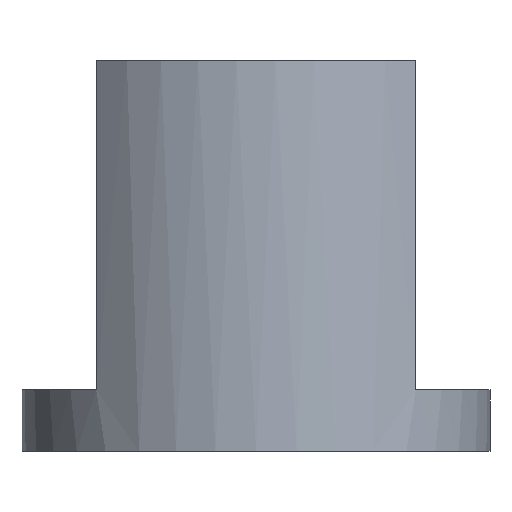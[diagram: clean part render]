
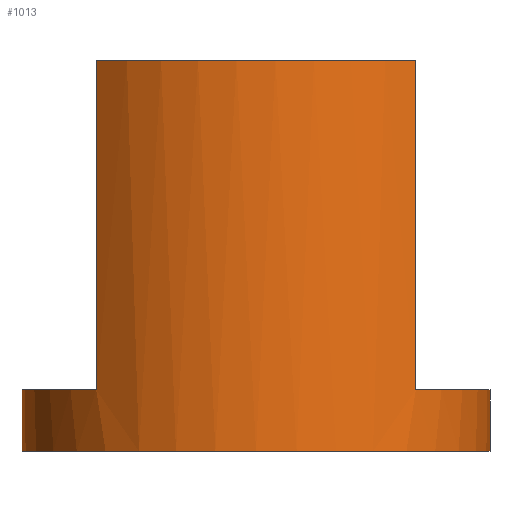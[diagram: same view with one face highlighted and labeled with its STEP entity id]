
A CAD part, front view. The second image highlights one B-rep face of the part: STEP entity #1013.
In plain terms, the highlighted cylindrical face has radius 9.207 mm (diameter 18.415 mm), a partial arc.
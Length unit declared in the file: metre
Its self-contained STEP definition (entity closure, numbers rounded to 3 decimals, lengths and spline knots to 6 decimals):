
#32=CYLINDRICAL_SURFACE('',#1115,0.009208);
#41=CIRCLE('',#1045,0.009208);
#44=CIRCLE('',#1049,0.009208);
#49=CIRCLE('',#1059,0.009208);
#73=CIRCLE('',#1104,0.009208);
#120=LINE('',#1641,#200);
#136=LINE('',#1792,#216);
#141=LINE('',#1803,#221);
#142=LINE('',#1805,#222);
#200=VECTOR('',#1245,1.);
#216=VECTOR('',#1303,1.);
#221=VECTOR('',#1314,1.);
#222=VECTOR('',#1317,1.);
#466=ORIENTED_EDGE('',*,*,#589,.F.);
#467=ORIENTED_EDGE('',*,*,#663,.T.);
#468=ORIENTED_EDGE('',*,*,#569,.T.);
#469=ORIENTED_EDGE('',*,*,#670,.F.);
#470=ORIENTED_EDGE('',*,*,#560,.F.);
#471=ORIENTED_EDGE('',*,*,#628,.T.);
#472=ORIENTED_EDGE('',*,*,#673,.T.);
#473=ORIENTED_EDGE('',*,*,#669,.F.);
#560=EDGE_CURVE('',#714,#715,#41,.T.);
#569=EDGE_CURVE('',#724,#723,#44,.T.);
#589=EDGE_CURVE('',#739,#740,#49,.T.);
#628=EDGE_CURVE('',#714,#771,#120,.T.);
#663=EDGE_CURVE('',#739,#724,#136,.T.);
#669=EDGE_CURVE('',#740,#796,#141,.T.);
#670=EDGE_CURVE('',#715,#723,#142,.T.);
#673=EDGE_CURVE('',#771,#796,#73,.T.);
#714=VERTEX_POINT('',#1429);
#715=VERTEX_POINT('',#1431);
#723=VERTEX_POINT('',#1448);
#724=VERTEX_POINT('',#1450);
#739=VERTEX_POINT('',#1489);
#740=VERTEX_POINT('',#1491);
#771=VERTEX_POINT('',#1640);
#796=VERTEX_POINT('',#1802);
#879=EDGE_LOOP('',(#466,#467,#468,#469,#470,#471,#472,#473));
#935=FACE_BOUND('',#879,.T.);
#1013=ADVANCED_FACE('',(#935),#32,.T.);
#1045=AXIS2_PLACEMENT_3D('',#1430,#1148,#1149);
#1049=AXIS2_PLACEMENT_3D('',#1449,#1162,#1163);
#1059=AXIS2_PLACEMENT_3D('',#1490,#1197,#1198);
#1104=AXIS2_PLACEMENT_3D('',#1810,#1323,#1324);
#1115=AXIS2_PLACEMENT_3D('',#1843,#1356,#1357);
#1148=DIRECTION('',(0.,0.,1.));
#1149=DIRECTION('',(0.,1.,0.));
#1162=DIRECTION('',(0.,0.,-1.));
#1163=DIRECTION('',(0.,1.,0.));
#1197=DIRECTION('',(0.,0.,-1.));
#1198=DIRECTION('',(0.,1.,0.));
#1245=DIRECTION('',(0.,0.,-1.));
#1303=DIRECTION('',(0.,0.,1.));
#1314=DIRECTION('',(0.,0.,1.));
#1317=DIRECTION('',(0.,0.,-1.));
#1323=DIRECTION('',(0.,0.,-1.));
#1324=DIRECTION('',(0.,1.,0.));
#1356=DIRECTION('',(0.,0.,1.));
#1357=DIRECTION('',(0.,-1.,0.));
#1429=CARTESIAN_POINT('',(-0.006287,-0.030057,0.026441));
#1430=CARTESIAN_POINT('',(0.,-0.02333,0.026441));
#1431=CARTESIAN_POINT('',(0.006287,-0.030057,0.026441));
#1448=CARTESIAN_POINT('',(0.006287,-0.030057,0.013487));
#1449=CARTESIAN_POINT('',(0.,-0.02333,0.013487));
#1450=CARTESIAN_POINT('',(0.009208,-0.02333,0.013487));
#1489=CARTESIAN_POINT('',(0.009208,-0.02333,0.011074));
#1490=CARTESIAN_POINT('',(0.,-0.02333,0.011074));
#1491=CARTESIAN_POINT('',(-0.009208,-0.02333,0.011074));
#1640=CARTESIAN_POINT('',(-0.006287,-0.030057,0.013487));
#1641=CARTESIAN_POINT('',(-0.006287,-0.030057,0.026441));
#1792=CARTESIAN_POINT('',(0.009208,-0.02333,0.011074));
#1802=CARTESIAN_POINT('',(-0.009208,-0.02333,0.013487));
#1803=CARTESIAN_POINT('',(-0.009208,-0.02333,0.011074));
#1805=CARTESIAN_POINT('',(0.006287,-0.030057,0.026441));
#1810=CARTESIAN_POINT('',(0.,-0.02333,0.013487));
#1843=CARTESIAN_POINT('',(0.,-0.02333,0.011074));
